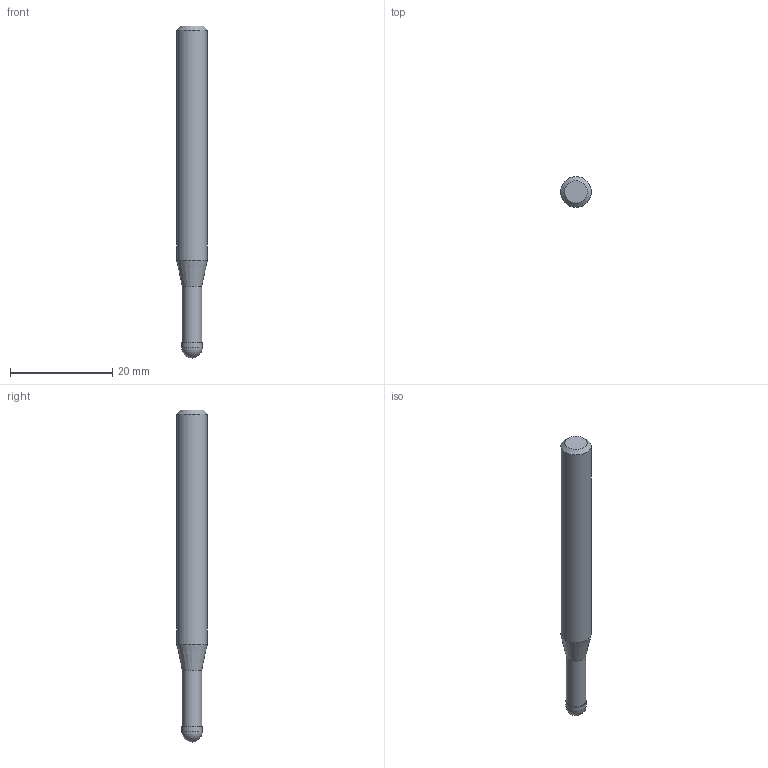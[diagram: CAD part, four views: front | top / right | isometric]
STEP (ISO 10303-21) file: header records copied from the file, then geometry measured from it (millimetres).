
FILE_DESCRIPTION((''),'2;1');
FILE_NAME('C:\Users\nsx150\AppData\Local\Temp\Mastercam 2021\3SYKECWX22\TEMP.step','2021-04-22T10:05:22',(''),(''),'STEP Write','Mastercam 2021 ... CNC Software, Inc.','');
FILE_SCHEMA(('AUTOMOTIVE_DESIGN'));
Length unit declared in the file: millimetre
Products named in the file (1): None
Bounding box: 6 x 6 x 65 mm (x, y, z)
Volume: 1543.5 mm3; surface area: 1156.8 mm2
Topology: 2 solids, 2 shells, 9 faces, 14 edges, 8 vertices
Faces by surface type: plane 3, cylinder 3, cone 2, sphere 1
Full cylindrical faces by diameter (mm): 3.8 x1, 4 x1, 6 x1
Entity records: 211 total; most frequent: DIRECTION 36, CARTESIAN_POINT 25, AXIS2_PLACEMENT_3D 18, ORIENTED_EDGE 14, EDGE_LOOP 14, STYLED_ITEM 12, ADVANCED_FACE 9, FACE_BOUND 8
